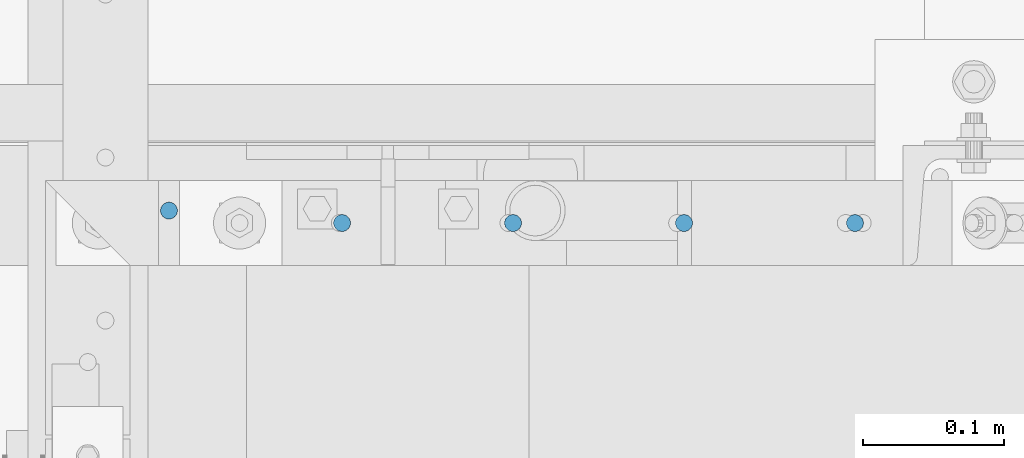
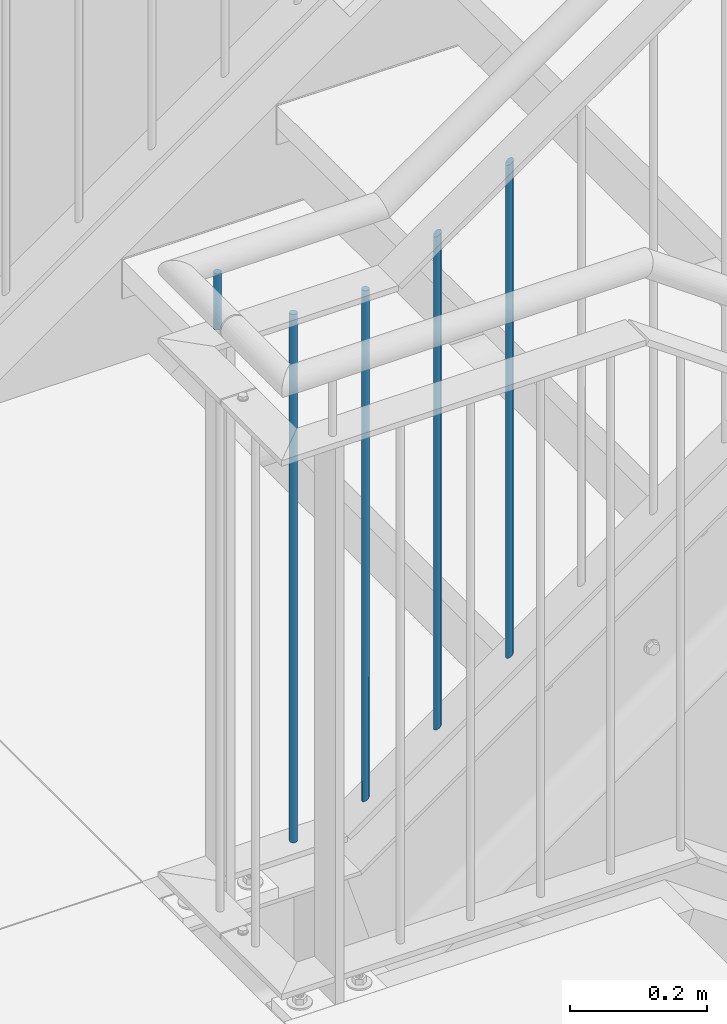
# One storey, part 22 of 831: 5 columns.
"""IFC2X3 building model written with IfcOpenShell, lengths in millimetres."""

from ifc_helpers import new_model, entity, si_unit, converted_unit, frame, origin, origin_with_axes, origin_2d, place, context, project, spatial, circle, extrude, clip, halfspace, material, element, save


model = new_model("IFC2X3")

# Units and contexts
model_context = context("Model", 3, precision=1e-09, world=origin_with_axes())
ifc_project = project(units=[si_unit("LENGTHUNIT", "METRE", prefix="MILLI"), si_unit("AREAUNIT", "SQUARE_METRE"), si_unit("VOLUMEUNIT", "CUBIC_METRE"), converted_unit("PLANEANGLEUNIT", "DEGREE", entity("IfcPlaneAngleMeasure", 0.01745329), si_unit("PLANEANGLEUNIT", "RADIAN"), dimensions=[0, 0, 0, 0, 0, 0, 0])], contexts=[model_context])

# Site, building, storey
site_placement = place(None, origin_with_axes())
site = spatial("IfcSite", under=ifc_project, at=site_placement, Name="Site", CompositionType="ELEMENT")
building_placement = place(site_placement, origin_with_axes())
building = spatial("IfcBuilding", under=site, at=building_placement, Name="Struktur 1", CompositionType="ELEMENT")
storey_placement = place(building_placement, origin_with_axes())
storey = spatial("IfcBuildingStorey", under=building, at=storey_placement, Name="Default Storey", CompositionType="ELEMENT", Elevation=0.0)

# Columns
ifc_material = material(Name="S235JR")
column_1_placement = place(None, frame((4824.293402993, 6091.736971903, 4869.285281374), z_axis=(0.0, 0.0, 1.0), x_axis=(1.0, 0.0, 0.0)))
element("IfcColumn", 1, at=column_1_placement, inside=storey, material=ifc_material, Name="Railing_Picket_Landing#0", ObjectType="Railing_Picket_Landing#0", context=model_context, shape_type="Clipping", body=[
    clip(extrude(circle(Radius=6.0, at=origin_2d()), origin(), (0.0, 0.0, -1.0), 952.285281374), halfspace(frame((-4824.293402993, -6091.736971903, -13.486281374), z_axis=(0.0, 0.0, -1.0), x_axis=(-1.0, 0.0, 0.0)), True)),
])
column_2_placement = place(None, frame((4945.377875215, 6091.736971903, 4855.8), z_axis=(0.0, 0.0, 1.0), x_axis=(1.0, 0.0, 0.0)))
element("IfcColumn", 2, at=column_2_placement, inside=storey, material=ifc_material, Name="Railing_Picket_Stair#1", ObjectType="Railing_Picket_Stair#1", context=model_context, shape_type="Clipping", body=[
    clip(extrude(circle(Radius=6.0, at=origin_2d()), origin(), (0.0, 0.0, -1.0), 915.634464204), halfspace(frame((-5168.277041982, -6091.736971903, -4538.747917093), z_axis=(-0.575128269, 0.0, 0.818063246), x_axis=(0.0, -1.0, 0.0)), True)),
])
column_3_placement = place(None, frame((5066.462347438, 6091.736971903, 4922.330320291), z_axis=(0.0, 0.0, 1.0), x_axis=(1.0, 0.0, 0.0)))
element("IfcColumn", 3, at=column_3_placement, inside=storey, material=ifc_material, Name="Railing_Picket_Stair#2", ObjectType="Railing_Picket_Stair#2", context=model_context, shape_type="Clipping", body=[
    clip(clip(extrude(circle(Radius=6.0, at=origin_2d()), origin(), (0.0, 0.0, -1.0), 897.037988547), halfspace(frame((-5701.648681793, -6091.736971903, -4018.840400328), z_axis=(0.575128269, 0.0, -0.818063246), x_axis=(0.0, 1.0, 0.0)), True)), halfspace(frame((-5289.361514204, -6091.736971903, -4605.278237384), z_axis=(-0.575128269, 0.0, 0.818063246), x_axis=(0.0, -1.0, 0.0)), True)),
])
column_4_placement = place(None, frame((5187.54681966, 6091.736971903, 5007.45711624), z_axis=(0.0, 0.0, 1.0), x_axis=(1.0, 0.0, 0.0)))
element("IfcColumn", 4, at=column_4_placement, inside=storey, material=ifc_material, Name="Railing_Picket_Stair#3", ObjectType="Railing_Picket_Stair#3", context=model_context, shape_type="Clipping", body=[
    clip(clip(extrude(circle(Radius=6.0, at=origin_2d()), origin(), (0.0, 0.0, -1.0), 897.037988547), halfspace(frame((-5822.733154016, -6091.736971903, -4103.967196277), z_axis=(0.575128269, 0.0, -0.818063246), x_axis=(0.0, 1.0, 0.0)), True)), halfspace(frame((-5410.445986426, -6091.736971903, -4690.405033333), z_axis=(-0.575128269, 0.0, 0.818063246), x_axis=(0.0, -1.0, 0.0)), True)),
])
column_5_placement = place(None, frame((4701.713402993, 6100.536971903, 4974.285281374), z_axis=(0.0, 0.0, 1.0), x_axis=(0.0, -1.0, 0.0)))
element("IfcColumn", 5, at=column_5_placement, inside=storey, material=ifc_material, Name="Bar#0", ObjectType="Bar#0", context=model_context, shape_type="Clipping", body=[
    clip(clip(extrude(circle(Radius=6.0, at=origin_2d()), origin(), (0.0, 0.0, -1.0), 116.970562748), halfspace(frame((6100.536971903, -4701.713402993, -8.486281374), z_axis=(0.0, 0.0, -1.0), x_axis=(0.0, -1.0, 0.0)), True)), halfspace(frame((6100.536971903, -4701.713402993, -108.484281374), z_axis=(0.0, 0.0, 1.0), x_axis=(0.0, 1.0, 0.0)), True)),
])

save(model, "model.ifc")
